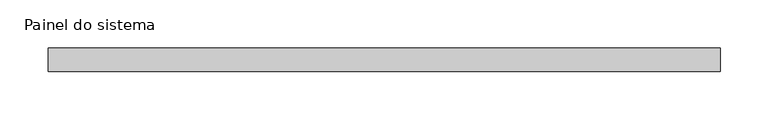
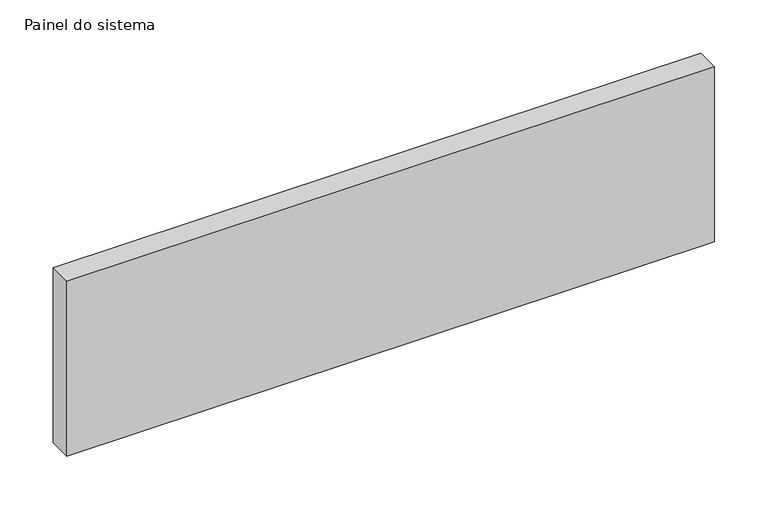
"""IFC4 building model written with IfcOpenShell, lengths in millimetres: plate geometry, Painel do sistema : Envidraçado."""

from ifc_helpers import new_model, si_unit, origin, origin_with_axes, place, context, project, spatial, polyline, outline, extrude, source, transform, mapped, element, save


def painel_do_sistema_0b951a8d(model_context):
    return source(origin(), model_context, "Body", "SweptSolid", [
        extrude(outline(polyline([(350.0, 24.5), (-350.0, 24.5), (-350.0, 49.5), (350.0, 49.5), (350.0, 24.5)])), origin_with_axes(), (0.0, 0.0, 1.0), 199.8945406),
    ])


if __name__ == "__main__":
    model = new_model("IFC4")
    model_context = context("Model", 3, world=origin())
    ifc_project = project(units=[si_unit("LENGTHUNIT", "METRE", prefix="MILLI")], contexts=[model_context])
    site = spatial("IfcSite", under=ifc_project)
    building = spatial("IfcBuilding", under=site)
    placement = place(None, origin())
    painel_do_sistema_shape = painel_do_sistema_0b951a8d(model_context)
    element("IfcPlate", 1, ObjectType="Painel do sistema : Envidraçado", at=placement, inside=building, context=model_context, shape_type="MappedRepresentation", body=[
        mapped(painel_do_sistema_shape, transform((0.0, 0.0, 0.0), x_axis=(1.0, 0.0, 0.0), y_axis=(0.0, 1.0, 0.0), z_axis=(0.0, 0.0, 1.0))),
    ])
    save(model, "model.ifc")
